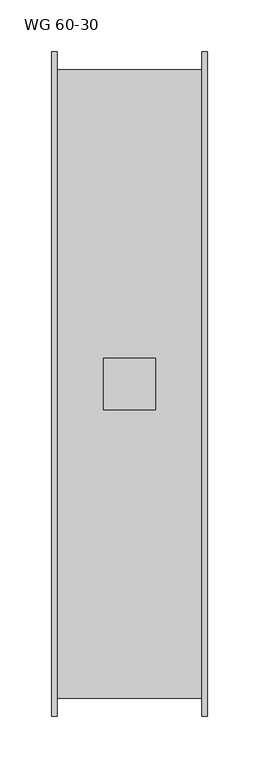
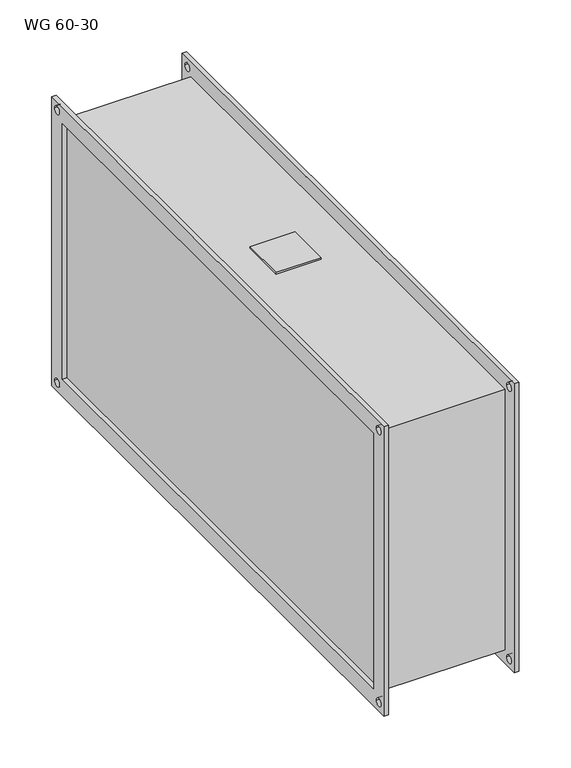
"""IFC4 building model written with IfcOpenShell, lengths in millimetres: damper geometry, KORF_Вставка_Гибкая_WG : WG 60-30."""

from ifc_helpers import new_model, si_unit, point, frame, frame_2d, origin, place, context, project, spatial, polyline, circle_curve, trimmed, segment, composite_curve, outline, extrude, source, transform, mapped, element, save


def wg_60_30_7123790e(model_context):
    return source(origin(), model_context, "Body", "SweptSolid", [
        extrude(outline(polyline([(50.0, -25.0), (50.0, 25.0), (100.0, 25.0), (100.0, -25.0), (50.0, -25.0)])), frame((0.0, 0.0, 153.0), z_axis=(0.0, 0.0, 1.0), x_axis=(1.0, 0.0, 0.0)), (0.0, 0.0, 1.0), 2.0),
        extrude(outline(polyline([(-320.0, 170.0), (320.0, 170.0), (320.0, -170.0), (-320.0, -170.0), (-320.0, 170.0)]), holes=[polyline([(-300.0, 150.0), (-300.0, -150.0), (300.0, -150.0), (300.0, 150.0), (-300.0, 150.0)]), composite_curve([segment(trimmed(circle_curve(frame_2d((310.0, 160.0)), 4.5), [point((305.5, 160.0))], [point((314.5, 160.0))], True, "CARTESIAN"), True, "CONTINUOUS"), segment(trimmed(circle_curve(frame_2d((310.0, 160.0)), 4.5), [point((314.5, 160.0))], [point((305.5, 160.0))], True, "CARTESIAN"), True, "CONTINUOUS")], self_intersect=False), composite_curve([segment(trimmed(circle_curve(frame_2d((-310.0, 160.0)), 4.5), [point((-314.5, 160.0))], [point((-305.5, 160.0))], True, "CARTESIAN"), True, "CONTINUOUS"), segment(trimmed(circle_curve(frame_2d((-310.0, 160.0)), 4.5), [point((-305.5, 160.0))], [point((-314.5, 160.0))], True, "CARTESIAN"), True, "CONTINUOUS")], self_intersect=False), composite_curve([segment(trimmed(circle_curve(frame_2d((-310.0, -160.0)), 4.5), [point((-314.5, -160.0))], [point((-305.5, -160.0))], True, "CARTESIAN"), True, "CONTINUOUS"), segment(trimmed(circle_curve(frame_2d((-310.0, -160.0)), 4.5), [point((-305.5, -160.0))], [point((-314.5, -160.0))], True, "CARTESIAN"), True, "CONTINUOUS")], self_intersect=False), composite_curve([segment(trimmed(circle_curve(frame_2d((310.0, -160.0)), 4.5), [point((305.5, -160.0))], [point((314.5, -160.0))], True, "CARTESIAN"), True, "CONTINUOUS"), segment(trimmed(circle_curve(frame_2d((310.0, -160.0)), 4.5), [point((314.5, -160.0))], [point((305.5, -160.0))], True, "CARTESIAN"), True, "CONTINUOUS")], self_intersect=False)]), frame((145.0, 0.0, 0.0), z_axis=(1.0, 0.0, 0.0), x_axis=(0.0, 1.0, 0.0)), (0.0, 0.0, 1.0), 5.0),
        extrude(outline(polyline([(-320.0, 170.0), (320.0, 170.0), (320.0, -170.0), (-320.0, -170.0), (-320.0, 170.0)]), holes=[polyline([(-300.0, 150.0), (-300.0, -150.0), (300.0, -150.0), (300.0, 150.0), (-300.0, 150.0)]), composite_curve([segment(trimmed(circle_curve(frame_2d((310.0, 160.0)), 4.5), [point((305.5, 160.0))], [point((314.5, 160.0))], True, "CARTESIAN"), True, "CONTINUOUS"), segment(trimmed(circle_curve(frame_2d((310.0, 160.0)), 4.5), [point((314.5, 160.0))], [point((305.5, 160.0))], True, "CARTESIAN"), True, "CONTINUOUS")], self_intersect=False), composite_curve([segment(trimmed(circle_curve(frame_2d((-310.0, 160.0)), 4.5), [point((-314.5, 160.0))], [point((-305.5, 160.0))], True, "CARTESIAN"), True, "CONTINUOUS"), segment(trimmed(circle_curve(frame_2d((-310.0, 160.0)), 4.5), [point((-305.5, 160.0))], [point((-314.5, 160.0))], True, "CARTESIAN"), True, "CONTINUOUS")], self_intersect=False), composite_curve([segment(trimmed(circle_curve(frame_2d((-310.0, -160.0)), 4.5), [point((-314.5, -160.0))], [point((-305.5, -160.0))], True, "CARTESIAN"), True, "CONTINUOUS"), segment(trimmed(circle_curve(frame_2d((-310.0, -160.0)), 4.5), [point((-305.5, -160.0))], [point((-314.5, -160.0))], True, "CARTESIAN"), True, "CONTINUOUS")], self_intersect=False), composite_curve([segment(trimmed(circle_curve(frame_2d((310.0, -160.0)), 4.5), [point((305.5, -160.0))], [point((314.5, -160.0))], True, "CARTESIAN"), True, "CONTINUOUS"), segment(trimmed(circle_curve(frame_2d((310.0, -160.0)), 4.5), [point((314.5, -160.0))], [point((305.5, -160.0))], True, "CARTESIAN"), True, "CONTINUOUS")], self_intersect=False)]), frame((0.0, 0.0, 0.0), z_axis=(1.0, 0.0, 0.0), x_axis=(0.0, 1.0, 0.0)), (0.0, 0.0, 1.0), 5.0),
        extrude(outline(polyline([(145.0, 303.0), (145.0, -303.0), (5.0, -303.0), (5.0, 303.0), (145.0, 303.0)])), frame((0.0, 0.0, -153.0), z_axis=(0.0, 0.0, 1.0), x_axis=(1.0, 0.0, 0.0)), (0.0, 0.0, 1.0), 306.0),
    ])


if __name__ == "__main__":
    model = new_model("IFC4")
    model_context = context("Model", 3, world=origin())
    ifc_project = project(units=[si_unit("LENGTHUNIT", "METRE", prefix="MILLI")], contexts=[model_context])
    site = spatial("IfcSite", under=ifc_project)
    building = spatial("IfcBuilding", under=site)
    placement = place(None, origin())
    wg_60_30_shape = wg_60_30_7123790e(model_context)
    element("IfcDamper", 1, ObjectType="KORF_Вставка_Гибкая_WG : WG 60-30", at=placement, inside=building, context=model_context, shape_type="MappedRepresentation", body=[
        mapped(wg_60_30_shape, transform((0.0, 0.0, 0.0), x_axis=(1.0, 0.0, 0.0), y_axis=(0.0, 1.0, 0.0), z_axis=(0.0, 0.0, 1.0))),
    ])
    save(model, "model.ifc")
